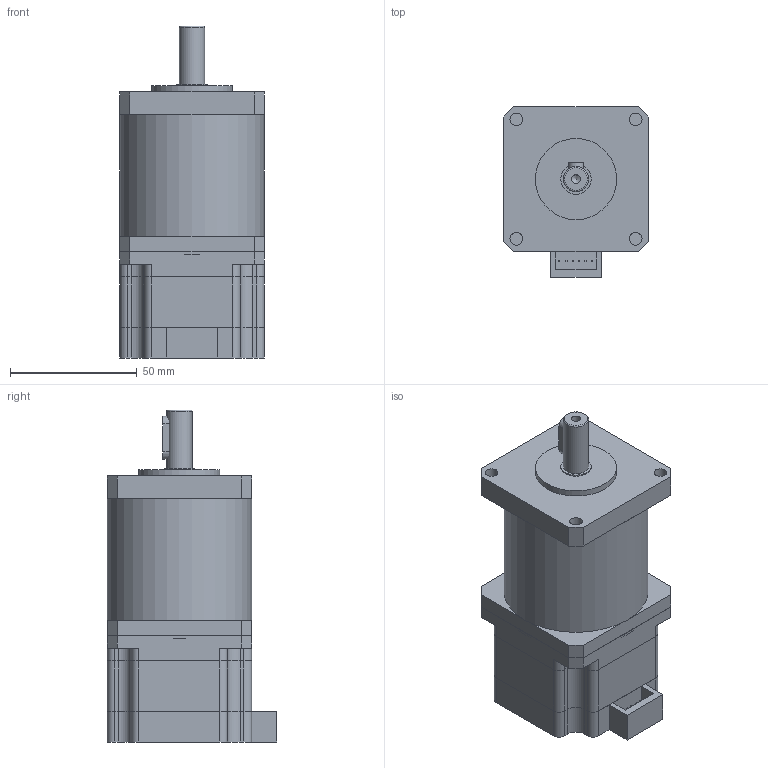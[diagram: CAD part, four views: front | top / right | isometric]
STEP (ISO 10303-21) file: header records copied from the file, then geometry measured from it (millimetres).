
FILE_DESCRIPTION(/* description */ (''),/* implementation_level */ '2;1');
FILE_NAME(/* name */ 'T57PG040-D42-0442.stp',/* time_stamp */ '2018-08-29T16:18:54+08:00',/* author */ (''),/* organization */ (''),/* preprocessor_version */ 'ST-DEVELOPER v11',/* originating_system */ 'SIEMENS UGS NX 6.0',/* authorisation */ '');
FILE_SCHEMA (('CONFIG_CONTROL_DESIGN'));
Length unit declared in the file: millimetre
Products named in the file (1): T57PG015-D42-0442
Bounding box: 57 x 67 x 131 mm (x, y, z)
Volume: 301613.4 mm3; surface area: 49567.4 mm2
Topology: 5 solids, 5 shells, 176 faces, 453 edges, 297 vertices
Faces by surface type: plane 126, cylinder 48, cone 1, torus 1
Full cylindrical faces by diameter (mm): 3.5 x1, 5 x4, 10 x1, 12 x1, 32 x1, 57 x2
Entity records: 5334 total; most frequent: CARTESIAN_POINT 910, DIRECTION 898, ORIENTED_EDGE 876, EDGE_CURVE 438, LINE 332, VECTOR 332, VERTEX_POINT 295, AXIS2_PLACEMENT_3D 283
